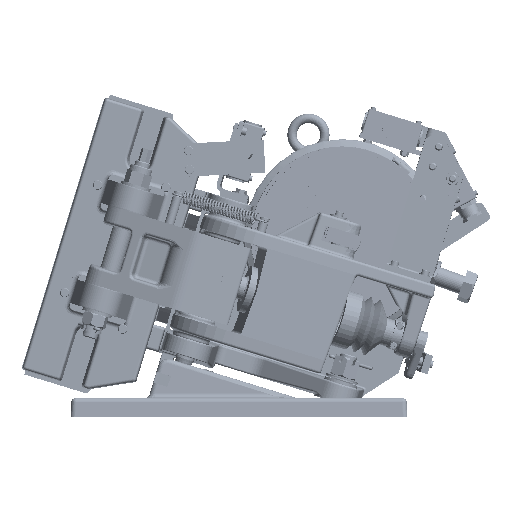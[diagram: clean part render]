
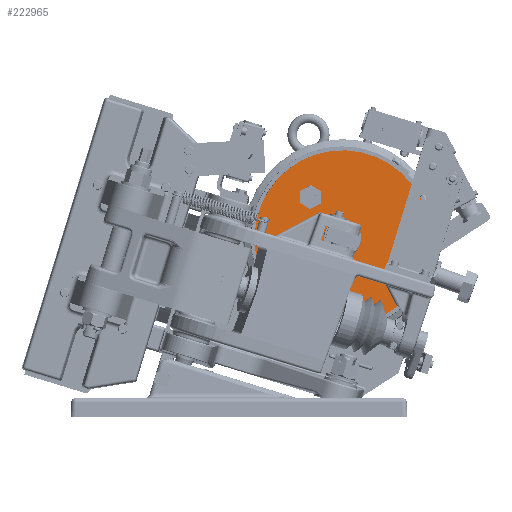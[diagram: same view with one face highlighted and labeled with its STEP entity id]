
A CAD part, top view. The second image highlights one B-rep face of the part: STEP entity #222965.
In plain terms, the highlighted planar face has unit normal (0.006, -0.002, 1).
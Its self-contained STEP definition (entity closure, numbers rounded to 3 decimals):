
#65539=CARTESIAN_POINT('',(288.171,189.565,28.633));
#65540=DIRECTION('',(-0.006,0.002,-1.));
#65541=DIRECTION('',(-0.788,-0.616,0.004));
#65542=AXIS2_PLACEMENT_3D('',#65539,#65540,#65541);
#65547=CARTESIAN_POINT('',(288.171,189.565,28.633));
#65548=DIRECTION('',(-0.006,0.002,-1.));
#65549=DIRECTION('',(0.788,0.616,-0.004));
#65550=AXIS2_PLACEMENT_3D('',#65547,#65548,#65549);
#65555=CARTESIAN_POINT('',(288.171,189.565,28.633));
#65556=DIRECTION('',(0.006,-0.002,1.));
#65557=DIRECTION('',(0.788,0.616,-0.004));
#65558=AXIS2_PLACEMENT_3D('',#65555,#65556,#65557);
#65563=CARTESIAN_POINT('',(288.171,189.565,28.633));
#65564=DIRECTION('',(0.006,-0.002,1.));
#65565=DIRECTION('',(-0.788,-0.616,0.004));
#65566=AXIS2_PLACEMENT_3D('',#65563,#65564,#65565);
#65571=DIRECTION('',(-0.234,-0.972,0.));
#65572=VECTOR('',#65571,9.815);
#65573=CARTESIAN_POINT('',(247.196,239.668,28.974));
#65574=LINE('',#65573,#65572);
#65578=DIRECTION('',(0.725,-0.689,-0.006));
#65579=VECTOR('',#65578,9.815);
#65580=CARTESIAN_POINT('',(244.897,230.126,28.97));
#65581=LINE('',#65580,#65579);
#65585=DIRECTION('',(0.959,0.283,-0.005));
#65586=VECTOR('',#65585,9.815);
#65587=CARTESIAN_POINT('',(252.011,223.364,28.914));
#65588=LINE('',#65587,#65586);
#65592=DIRECTION('',(0.234,0.972,0.));
#65593=VECTOR('',#65592,9.815);
#65594=CARTESIAN_POINT('',(261.424,226.144,28.863));
#65595=LINE('',#65594,#65593);
#65599=DIRECTION('',(-0.725,0.689,0.006));
#65600=VECTOR('',#65599,9.815);
#65601=CARTESIAN_POINT('',(263.723,235.686,28.866));
#65602=LINE('',#65601,#65600);
#65606=DIRECTION('',(-0.959,-0.283,0.005));
#65607=VECTOR('',#65606,9.815);
#65608=CARTESIAN_POINT('',(256.609,242.448,28.922));
#65609=LINE('',#65608,#65607);
#142228=CARTESIAN_POINT('',(214.887,132.309,
28.971));
#142229=CARTESIAN_POINT('',(361.455,246.822,
28.296));
#142230=VERTEX_POINT('',#142228);
#142231=VERTEX_POINT('',#142229);
#142232=CARTESIAN_POINT('',(303.931,201.879,
28.56));
#142233=CARTESIAN_POINT('',(272.411,177.252,
28.706));
#142234=VERTEX_POINT('',#142232);
#142235=VERTEX_POINT('',#142233);
#142236=CARTESIAN_POINT('',(247.196,239.668,
28.974));
#142237=CARTESIAN_POINT('',(244.897,230.126,
28.97));
#142238=VERTEX_POINT('',#142236);
#142239=VERTEX_POINT('',#142237);
#142240=CARTESIAN_POINT('',(252.011,223.364,
28.914));
#142241=VERTEX_POINT('',#142240);
#142242=CARTESIAN_POINT('',(261.424,226.144,
28.863));
#142243=VERTEX_POINT('',#142242);
#142244=CARTESIAN_POINT('',(263.723,235.686,
28.866));
#142245=VERTEX_POINT('',#142244);
#142246=CARTESIAN_POINT('',(256.609,242.448,
28.922));
#142247=VERTEX_POINT('',#142246);
#222935=CARTESIAN_POINT('',(230.916,262.85,
29.115));
#222936=DIRECTION('',(-0.006,0.002,-1.));
#222937=DIRECTION('',(-0.788,-0.616,0.004));
#222938=AXIS2_PLACEMENT_3D('',#222935,#222936,#222937);
#222939=PLANE('',#222938);
#222940=ORIENTED_EDGE('',*,*,#222925,.T.);
#222942=ORIENTED_EDGE('',*,*,#222941,.T.);
#222943=EDGE_LOOP('',(#222940,#222942));
#222944=FACE_OUTER_BOUND('',#222943,.F.);
#222946=ORIENTED_EDGE('',*,*,#222945,.T.);
#222948=ORIENTED_EDGE('',*,*,#222947,.T.);
#222949=EDGE_LOOP('',(#222946,#222948));
#222950=FACE_BOUND('',#222949,.F.);
#222952=ORIENTED_EDGE('',*,*,#222951,.T.);
#222954=ORIENTED_EDGE('',*,*,#222953,.T.);
#222956=ORIENTED_EDGE('',*,*,#222955,.T.);
#222958=ORIENTED_EDGE('',*,*,#222957,.T.);
#222960=ORIENTED_EDGE('',*,*,#222959,.T.);
#222962=ORIENTED_EDGE('',*,*,#222961,.T.);
#222963=EDGE_LOOP('',(#222952,#222954,#222956,#222958,#222960,#222962));
#222964=FACE_BOUND('',#222963,.F.);
#222965=ADVANCED_FACE('',(#222944,#222950,#222964),#222939,.F.);
#65543=CIRCLE('',#65542,93.);
#65551=CIRCLE('',#65550,93.);
#65559=CIRCLE('',#65558,20.);
#65567=CIRCLE('',#65566,20.);
#222925=EDGE_CURVE('',#142230,#142231,#65543,.T.);
#222941=EDGE_CURVE('',#142231,#142230,#65551,.T.);
#222945=EDGE_CURVE('',#142234,#142235,#65559,.T.);
#222947=EDGE_CURVE('',#142235,#142234,#65567,.T.);
#222951=EDGE_CURVE('',#142238,#142239,#65574,.T.);
#222953=EDGE_CURVE('',#142239,#142241,#65581,.T.);
#222955=EDGE_CURVE('',#142241,#142243,#65588,.T.);
#222957=EDGE_CURVE('',#142243,#142245,#65595,.T.);
#222959=EDGE_CURVE('',#142245,#142247,#65602,.T.);
#222961=EDGE_CURVE('',#142247,#142238,#65609,.T.);
